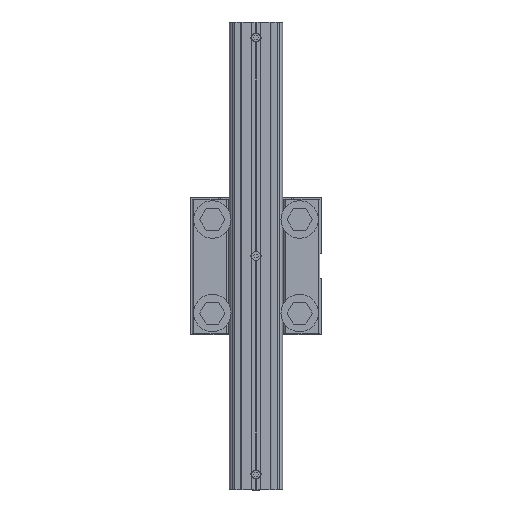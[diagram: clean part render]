
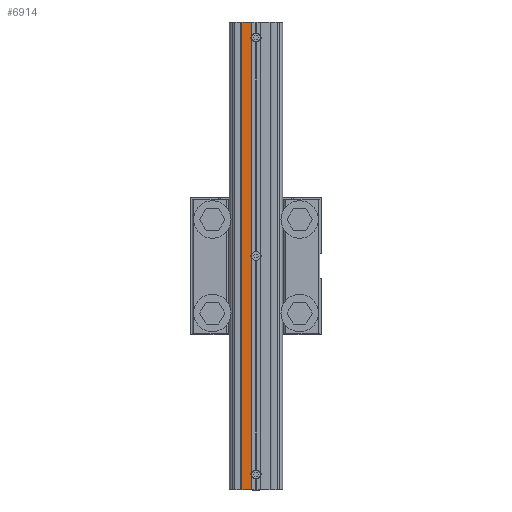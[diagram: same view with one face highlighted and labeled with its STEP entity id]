
A CAD part, front view. The second image highlights one B-rep face of the part: STEP entity #6914.
In plain terms, the highlighted planar face has unit normal (0, -1, 0).
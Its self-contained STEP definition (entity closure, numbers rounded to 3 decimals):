
#60 = VERTEX_POINT ( 'NONE', #3987 ) ;
#414 = VECTOR ( 'NONE', #2236, 1000. ) ;
#417 = EDGE_CURVE ( 'NONE', #8927, #5190, #456, .T. ) ;
#450 = ORIENTED_EDGE ( 'NONE', *, *, #10859, .F. ) ;
#456 = LINE ( 'NONE', #6294, #6118 ) ;
#522 = ORIENTED_EDGE ( 'NONE', *, *, #14226, .F. ) ;
#615 = LINE ( 'NONE', #2791, #8685 ) ;
#838 = AXIS2_PLACEMENT_3D ( 'NONE', #12105, #1436, #6171 ) ;
#921 = CARTESIAN_POINT ( 'NONE',  ( -3., -10., 291.25 ) ) ;
#1009 = EDGE_CURVE ( 'NONE', #5190, #60, #7218, .T. ) ;
#1076 = VECTOR ( 'NONE', #7052, 1000. ) ;
#1436 = DIRECTION ( 'NONE',  ( 0., 1., 0. ) ) ;
#1802 = DIRECTION ( 'NONE',  ( 0., 0., -1. ) ) ;
#2035 = ORIENTED_EDGE ( 'NONE', *, *, #417, .T. ) ;
#2236 = DIRECTION ( 'NONE',  ( 0., 0., -1. ) ) ;
#2257 = VERTEX_POINT ( 'NONE', #7609 ) ;
#2261 = ORIENTED_EDGE ( 'NONE', *, *, #14803, .F. ) ;
#2372 = VERTEX_POINT ( 'NONE', #6593 ) ;
#2541 = CARTESIAN_POINT ( 'NONE',  ( -9., -10., 0. ) ) ;
#2580 = DIRECTION ( 'NONE',  ( 0., 1., 0. ) ) ;
#2715 = EDGE_CURVE ( 'NONE', #10274, #2372, #11889, .T. ) ;
#2791 = CARTESIAN_POINT ( 'NONE',  ( -3., -10., 300. ) ) ;
#3269 = ORIENTED_EDGE ( 'NONE', *, *, #4924, .T. ) ;
#3690 = VECTOR ( 'NONE', #12834, 1000. ) ;
#3753 = DIRECTION ( 'NONE',  ( 0., 0., 1. ) ) ;
#3963 = CARTESIAN_POINT ( 'NONE',  ( -3., -10., 148.75 ) ) ;
#3987 = CARTESIAN_POINT ( 'NONE',  ( -3., -10., 0. ) ) ;
#4176 = VERTEX_POINT ( 'NONE', #3963 ) ;
#4563 = CARTESIAN_POINT ( 'NONE',  ( 0., -10., 0. ) ) ;
#4665 = DIRECTION ( 'NONE',  ( 1., 0., 0. ) ) ;
#4691 = ORIENTED_EDGE ( 'NONE', *, *, #7587, .T. ) ;
#4924 = EDGE_CURVE ( 'NONE', #10274, #5124, #15389, .T. ) ;
#4941 = VECTOR ( 'NONE', #4665, 1000. ) ;
#5091 = AXIS2_PLACEMENT_3D ( 'NONE', #8702, #10987, #5188 ) ;
#5124 = VERTEX_POINT ( 'NONE', #921 ) ;
#5188 = DIRECTION ( 'NONE',  ( 0., 0., 1. ) ) ;
#5190 = VERTEX_POINT ( 'NONE', #2541 ) ;
#5830 = LINE ( 'NONE', #11706, #4941 ) ;
#5860 = EDGE_CURVE ( 'NONE', #4176, #2372, #11212, .T. ) ;
#5977 = AXIS2_PLACEMENT_3D ( 'NONE', #8583, #2580, #3753 ) ;
#6024 = PLANE ( 'NONE',  #838 ) ;
#6118 = VECTOR ( 'NONE', #1802, 1000. ) ;
#6171 = DIRECTION ( 'NONE',  ( 0., 0., 1. ) ) ;
#6272 = EDGE_LOOP ( 'NONE', ( #4691, #450, #7675, #10472, #3269, #522, #12030, #2035, #14464, #2261 ) ) ;
#6294 = CARTESIAN_POINT ( 'NONE',  ( -9., -10., 300. ) ) ;
#6593 = CARTESIAN_POINT ( 'NONE',  ( -3., -10., 151.25 ) ) ;
#6732 = VECTOR ( 'NONE', #10580, 1000. ) ;
#6813 = LINE ( 'NONE', #13900, #6732 ) ;
#6866 = CARTESIAN_POINT ( 'NONE',  ( -3., -10., 300. ) ) ;
#6914 = ADVANCED_FACE ( 'NONE', ( #14585 ), #6024, .F. ) ;
#7052 = DIRECTION ( 'NONE',  ( 1., 0., 0. ) ) ;
#7218 = LINE ( 'NONE', #4563, #1076 ) ;
#7219 = LINE ( 'NONE', #12987, #3690 ) ;
#7587 = EDGE_CURVE ( 'NONE', #11708, #2257, #11832, .T. ) ;
#7609 = CARTESIAN_POINT ( 'NONE',  ( -3., -10., 11.25 ) ) ;
#7675 = ORIENTED_EDGE ( 'NONE', *, *, #5860, .T. ) ;
#7968 = DIRECTION ( 'NONE',  ( 0., 0., 1. ) ) ;
#8583 = CARTESIAN_POINT ( 'NONE',  ( 0., -10., 150. ) ) ;
#8685 = VECTOR ( 'NONE', #13533, 1000. ) ;
#8702 = CARTESIAN_POINT ( 'NONE',  ( 0., -10., 10. ) ) ;
#8927 = VERTEX_POINT ( 'NONE', #14429 ) ;
#9187 = CARTESIAN_POINT ( 'NONE',  ( -3., -10., 288.75 ) ) ;
#10274 = VERTEX_POINT ( 'NONE', #9187 ) ;
#10472 = ORIENTED_EDGE ( 'NONE', *, *, #2715, .F. ) ;
#10580 = DIRECTION ( 'NONE',  ( 0., 0., -1. ) ) ;
#10581 = CARTESIAN_POINT ( 'NONE',  ( -3., -10., 300. ) ) ;
#10859 = EDGE_CURVE ( 'NONE', #4176, #2257, #6813, .T. ) ;
#10987 = DIRECTION ( 'NONE',  ( 0., 1., 0. ) ) ;
#11212 = CIRCLE ( 'NONE', #5977, 3.25 ) ;
#11648 = CARTESIAN_POINT ( 'NONE',  ( -3., -10., 8.75 ) ) ;
#11706 = CARTESIAN_POINT ( 'NONE',  ( 0., -10., 300. ) ) ;
#11708 = VERTEX_POINT ( 'NONE', #11648 ) ;
#11832 = CIRCLE ( 'NONE', #5091, 3.25 ) ;
#11889 = LINE ( 'NONE', #10581, #414 ) ;
#12030 = ORIENTED_EDGE ( 'NONE', *, *, #14084, .F. ) ;
#12105 = CARTESIAN_POINT ( 'NONE',  ( 0., -10., 300. ) ) ;
#12642 = DIRECTION ( 'NONE',  ( 0., 1., 0. ) ) ;
#12834 = DIRECTION ( 'NONE',  ( 0., 0., -1. ) ) ;
#12987 = CARTESIAN_POINT ( 'NONE',  ( -3., -10., 300. ) ) ;
#13533 = DIRECTION ( 'NONE',  ( 0., 0., -1. ) ) ;
#13900 = CARTESIAN_POINT ( 'NONE',  ( -3., -10., 300. ) ) ;
#14033 = CARTESIAN_POINT ( 'NONE',  ( 0., -10., 290. ) ) ;
#14084 = EDGE_CURVE ( 'NONE', #8927, #14663, #5830, .T. ) ;
#14135 = AXIS2_PLACEMENT_3D ( 'NONE', #14033, #12642, #7968 ) ;
#14226 = EDGE_CURVE ( 'NONE', #14663, #5124, #7219, .T. ) ;
#14429 = CARTESIAN_POINT ( 'NONE',  ( -9., -10., 300. ) ) ;
#14464 = ORIENTED_EDGE ( 'NONE', *, *, #1009, .T. ) ;
#14585 = FACE_OUTER_BOUND ( 'NONE', #6272, .T. ) ;
#14663 = VERTEX_POINT ( 'NONE', #6866 ) ;
#14803 = EDGE_CURVE ( 'NONE', #11708, #60, #615, .T. ) ;
#15389 = CIRCLE ( 'NONE', #14135, 3.25 ) ;
